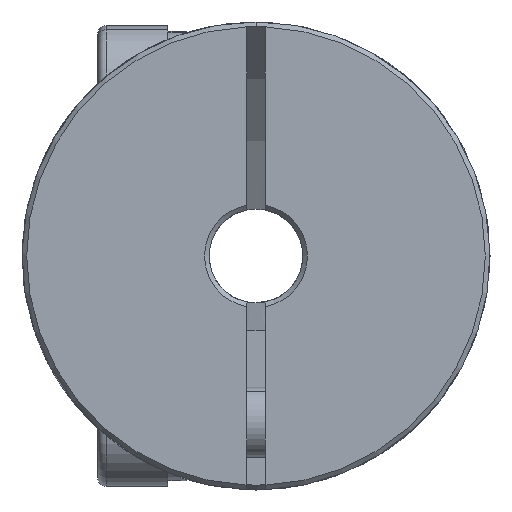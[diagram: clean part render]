
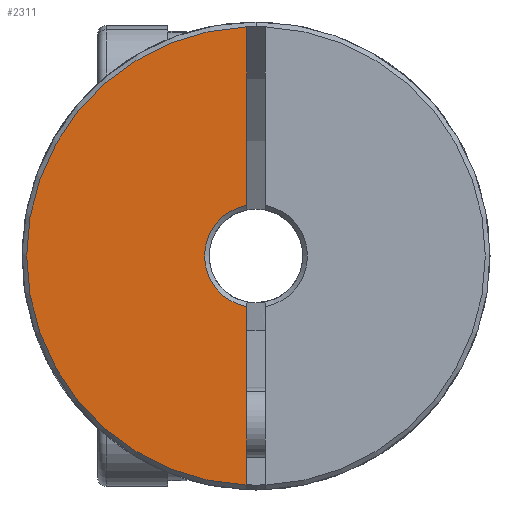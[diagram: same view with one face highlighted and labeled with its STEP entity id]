
A CAD part, front view. The second image highlights one B-rep face of the part: STEP entity #2311.
In plain terms, the highlighted planar face has unit normal (0, -1, 0).
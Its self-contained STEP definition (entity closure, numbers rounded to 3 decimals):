
#32 = DIRECTION ( 'NONE',  ( 0., 0., -1. ) ) ;
#620 = FACE_OUTER_BOUND ( 'NONE', #6277, .T. ) ;
#1263 = AXIS2_PLACEMENT_3D ( 'NONE', #6383, #1905, #3351 ) ;
#1867 = AXIS2_PLACEMENT_3D ( 'NONE', #7363, #2141, #6206 ) ;
#1905 = DIRECTION ( 'NONE',  ( 0., 1., 0. ) ) ;
#2103 = CARTESIAN_POINT ( 'NONE',  ( -0.4, -17.5, 9.792 ) ) ;
#2141 = DIRECTION ( 'NONE',  ( 0., 1., 0. ) ) ;
#2240 = PLANE ( 'NONE',  #1867 ) ;
#2282 = CIRCLE ( 'NONE', #7314, 9.8 ) ;
#2311 = ADVANCED_FACE ( 'NONE', ( #620 ), #2240, .F. ) ;
#2347 = ORIENTED_EDGE ( 'NONE', *, *, #7470, .F. ) ;
#2360 = ORIENTED_EDGE ( 'NONE', *, *, #7016, .T. ) ;
#2538 = CARTESIAN_POINT ( 'NONE',  ( 0., -17.5, 0. ) ) ;
#2900 = VERTEX_POINT ( 'NONE', #4048 ) ;
#2929 = CARTESIAN_POINT ( 'NONE',  ( -0.4, -17.5, 2.163 ) ) ;
#3351 = DIRECTION ( 'NONE',  ( 0., 0., 1. ) ) ;
#3374 = EDGE_CURVE ( 'NONE', #2900, #4047, #7382, .T. ) ;
#3738 = VECTOR ( 'NONE', #5409, 1000. ) ;
#3777 = VECTOR ( 'NONE', #32, 1000. ) ;
#4047 = VERTEX_POINT ( 'NONE', #6998 ) ;
#4048 = CARTESIAN_POINT ( 'NONE',  ( -0.4, -17.5, -2.163 ) ) ;
#4324 = CARTESIAN_POINT ( 'NONE',  ( -0.4, -17.5, 0. ) ) ;
#4384 = CIRCLE ( 'NONE', #1263, 2.2 ) ;
#4504 = ORIENTED_EDGE ( 'NONE', *, *, #5817, .T. ) ;
#4742 = CARTESIAN_POINT ( 'NONE',  ( -0.4, -17.5, 0. ) ) ;
#4917 = VERTEX_POINT ( 'NONE', #2103 ) ;
#4972 = ORIENTED_EDGE ( 'NONE', *, *, #3374, .F. ) ;
#5043 = VERTEX_POINT ( 'NONE', #2929 ) ;
#5409 = DIRECTION ( 'NONE',  ( 0., 0., -1. ) ) ;
#5817 = EDGE_CURVE ( 'NONE', #4917, #4047, #2282, .T. ) ;
#6206 = DIRECTION ( 'NONE',  ( 0., 0., 1. ) ) ;
#6277 = EDGE_LOOP ( 'NONE', ( #2347, #4504, #4972, #2360 ) ) ;
#6383 = CARTESIAN_POINT ( 'NONE',  ( 0., -17.5, 0. ) ) ;
#6526 = LINE ( 'NONE', #4324, #3738 ) ;
#6597 = DIRECTION ( 'NONE',  ( 0., -1., 0. ) ) ;
#6998 = CARTESIAN_POINT ( 'NONE',  ( -0.4, -17.5, -9.792 ) ) ;
#7016 = EDGE_CURVE ( 'NONE', #2900, #5043, #4384, .T. ) ;
#7226 = DIRECTION ( 'NONE',  ( 0., 0., 1. ) ) ;
#7314 = AXIS2_PLACEMENT_3D ( 'NONE', #2538, #6597, #7226 ) ;
#7363 = CARTESIAN_POINT ( 'NONE',  ( 0., -17.5, 0. ) ) ;
#7382 = LINE ( 'NONE', #4742, #3777 ) ;
#7470 = EDGE_CURVE ( 'NONE', #4917, #5043, #6526, .T. ) ;
